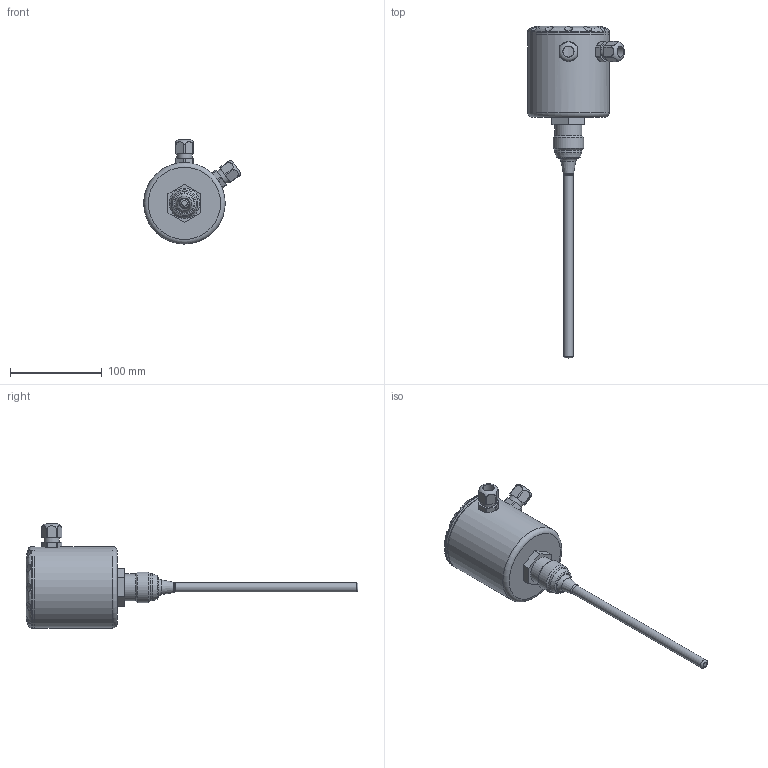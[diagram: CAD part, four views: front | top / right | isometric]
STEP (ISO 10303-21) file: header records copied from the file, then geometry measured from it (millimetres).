
FILE_DESCRIPTION( ( 'Unknown' ), '1' );
FILE_NAME( 'F:/U_Proces/Dokumentation/7000 3D Step filer/7000-/7000081/lsp050.stp', 'Unknown', ( 'Unknown' ), ( 'Unknown' ), 'PSStep 13.0', 'Unknown', ' ' );
FILE_SCHEMA( ( 'AUTOMOTIVE_DESIGN { 1 0 10303 214 1 1 1 1 }' ) );
Length unit declared in the file: millimetre
Products named in the file (1): HUS
Bounding box: 105.54 x 362.75 x 113.8 mm (x, y, z)
Surface area: 94731.7 mm2 (no closed solid volume)
Topology: 0 solids, 192 shells, 192 faces, 903 edges, 846 vertices
Faces by surface type: cylinder 77, plane 69, torus 22, cone 22, bspline 2
Full cylindrical faces by diameter (mm): 3 x2, 7 x1, 10 x3, 11.5 x1, 12 x2, 14 x1, 16 x2, 16.691 x2, 19.5 x1, 24.98 x1, 26 x2, 29.5 x2, 33.25 x1, 76 x1, 80 x1, 89 x2
Entity records: 12972 total; most frequent: CARTESIAN_POINT 5041, DIRECTION 1348, ORIENTED_EDGE 820, EDGE_CURVE 820, VERTEX_POINT 820, AXIS2_PLACEMENT_3D 529, CIRCLE 306, LINE 290
